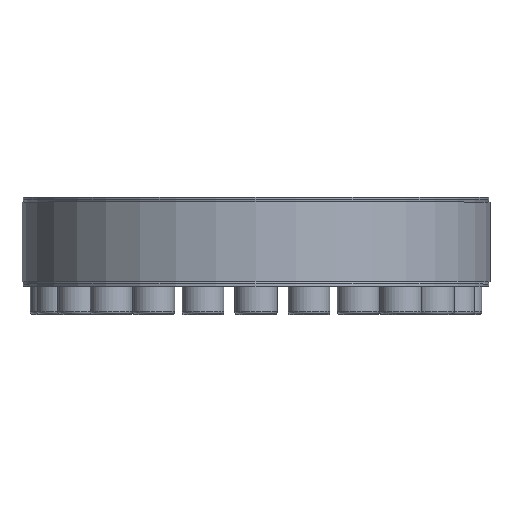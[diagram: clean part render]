
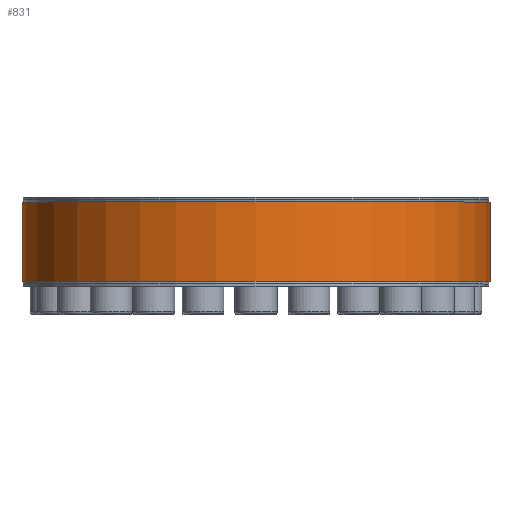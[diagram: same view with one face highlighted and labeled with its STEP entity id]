
A CAD part, top view. The second image highlights one B-rep face of the part: STEP entity #831.
In plain terms, the highlighted cylindrical face has radius 100 mm (diameter 200 mm), a partial arc.
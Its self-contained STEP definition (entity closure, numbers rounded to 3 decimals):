
#831 = ADVANCED_FACE( '', ( #1696 ), #1697, .T. );
#1696 = FACE_OUTER_BOUND( '', #3349, .T. );
#1697 = CYLINDRICAL_SURFACE( '', #3350, 100. );
#3349 = EDGE_LOOP( '', ( #5095, #5096, #5097, #5098 ) );
#3350 = AXIS2_PLACEMENT_3D( '', #5099, #5100, #5101 );
#5095 = ORIENTED_EDGE( '', *, *, #8882, .F. );
#5096 = ORIENTED_EDGE( '', *, *, #8883, .T. );
#5097 = ORIENTED_EDGE( '', *, *, #8884, .T. );
#5098 = ORIENTED_EDGE( '', *, *, #8885, .F. );
#5099 = CARTESIAN_POINT( '', ( 0., -60., 0. ) );
#5100 = DIRECTION( '', ( 0., -1., 0. ) );
#5101 = DIRECTION( '', ( 0., 0., 1. ) );
#8882 = EDGE_CURVE( '', #9929, #9930, #9931, .F. );
#8883 = EDGE_CURVE( '', #9929, #9932, #9933, .T. );
#8884 = EDGE_CURVE( '', #9932, #9934, #9935, .F. );
#8885 = EDGE_CURVE( '', #9930, #9934, #9936, .T. );
#9929 = VERTEX_POINT( '', #11481 );
#9930 = VERTEX_POINT( '', #11482 );
#9931 = LINE( '', #11483, #11484 );
#9932 = VERTEX_POINT( '', #11485 );
#9933 = CIRCLE( '', #11486, 100. );
#9934 = VERTEX_POINT( '', #11487 );
#9935 = LINE( '', #11488, #11489 );
#9936 = CIRCLE( '', #11490, 100. );
#11481 = CARTESIAN_POINT( '', ( 1.667, 17., -99.986 ) );
#11482 = CARTESIAN_POINT( '', ( 1.667, -17., -99.986 ) );
#11483 = CARTESIAN_POINT( '', ( 1.667, -60., -99.986 ) );
#11484 = VECTOR( '', #14412, 1000. );
#11485 = CARTESIAN_POINT( '', ( -1.667, 17., -99.986 ) );
#11486 = AXIS2_PLACEMENT_3D( '', #14413, #14414, #14415 );
#11487 = CARTESIAN_POINT( '', ( -1.667, -17., -99.986 ) );
#11488 = CARTESIAN_POINT( '', ( -1.667, -60., -99.986 ) );
#11489 = VECTOR( '', #14416, 1000. );
#11490 = AXIS2_PLACEMENT_3D( '', #14417, #14418, #14419 );
#14412 = DIRECTION( '', ( 0., 1., 0. ) );
#14413 = CARTESIAN_POINT( '', ( 0., 17., 0. ) );
#14414 = DIRECTION( '', ( 0., -1., 0. ) );
#14415 = DIRECTION( '', ( 0., 0., -1. ) );
#14416 = DIRECTION( '', ( 0., 1., 0. ) );
#14417 = CARTESIAN_POINT( '', ( 0., -17., 0. ) );
#14418 = DIRECTION( '', ( 0., -1., 0. ) );
#14419 = DIRECTION( '', ( 0., 0., -1. ) );
